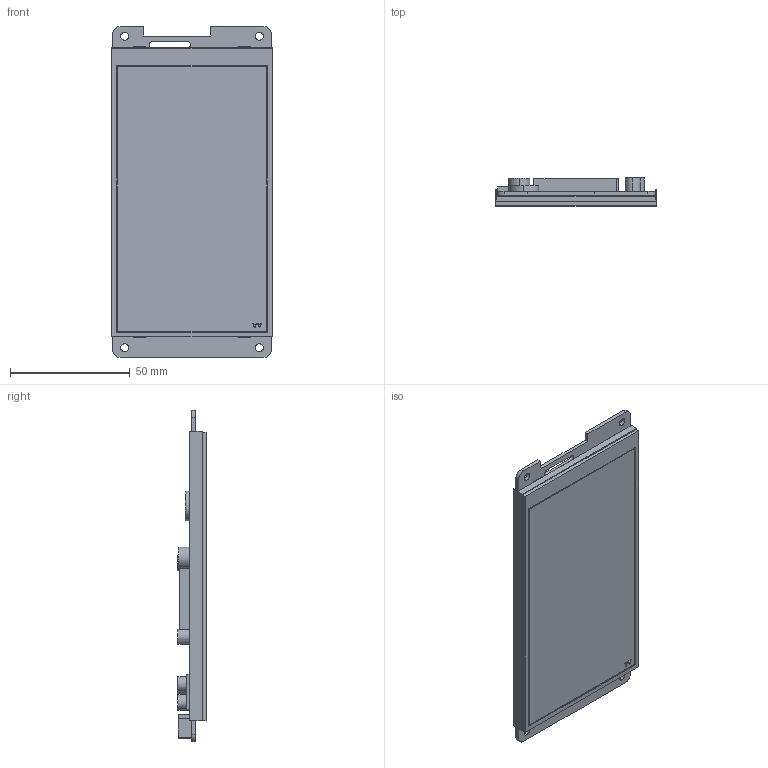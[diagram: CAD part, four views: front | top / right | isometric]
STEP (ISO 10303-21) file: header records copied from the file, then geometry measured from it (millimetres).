
FILE_DESCRIPTION((''),'2;1');
FILE_NAME('DMG85480K050-03WTC_ASM','2022-02-21T',('Administrator'),(''),'PRO/ENGINEER BY PARAMETRIC TECHNOLOGY CORPORATION, 2014320','PRO/ENGINEER BY PARAMETRIC TECHNOLOGY CORPORATION, 2014320','');
FILE_SCHEMA(('CONFIG_CONTROL_DESIGN','SHAPE_APPEARANCE_LAYERS_GROUPS'));
Length unit declared in the file: millimetre
Products named in the file (5): TK050005; LI85480T050HD4504; PCB; YF05002; DMG85480K050-03WTC_ASM
Assembly tree (4 placements, depth 2):
  DMG85480K050-03WTC_ASM
    TK050005
    LI85480T050HD4504
    PCB
    YF05002
Bounding box: 67.5 x 11.75 x 138.3 mm (x, y, z)
Volume: 50789.2 mm3; surface area: 60351.1 mm2
Topology: 4 solids, 4 shells, 184 faces, 462 edges, 308 vertices
Faces by surface type: plane 154, cylinder 30
Entity records: 5711 total; most frequent: CARTESIAN_POINT 963, ORIENTED_EDGE 924, DIRECTION 908, EDGE_CURVE 462, VECTOR 402, LINE 402, VERTEX_POINT 308, AXIS2_PLACEMENT_3D 253
